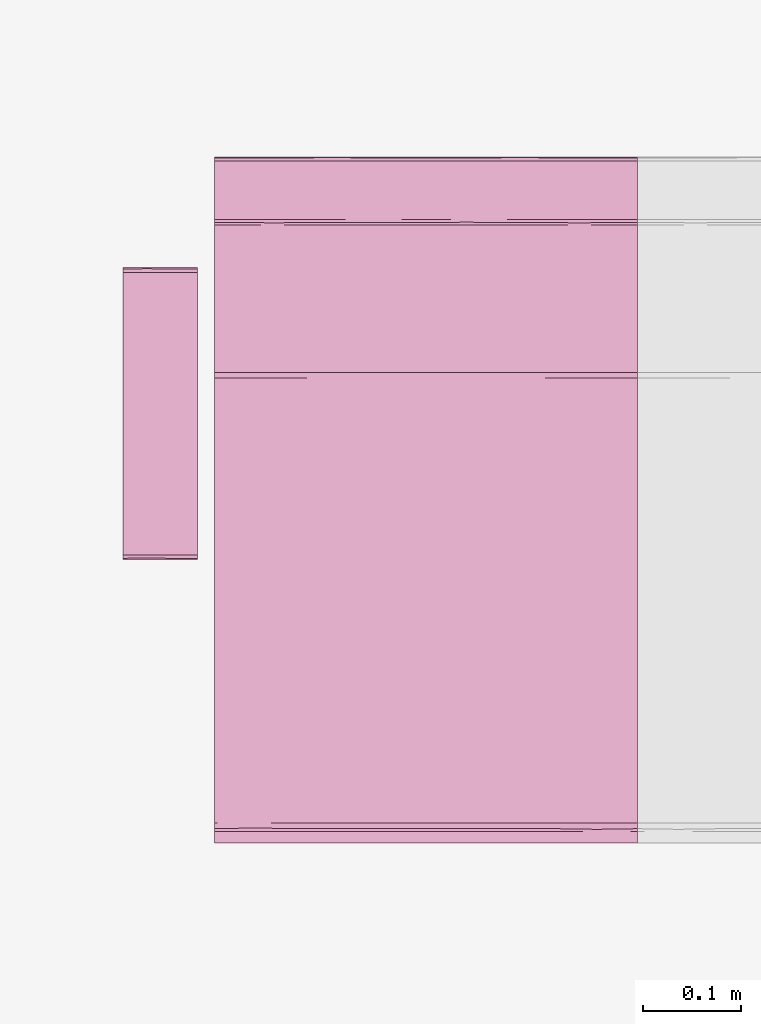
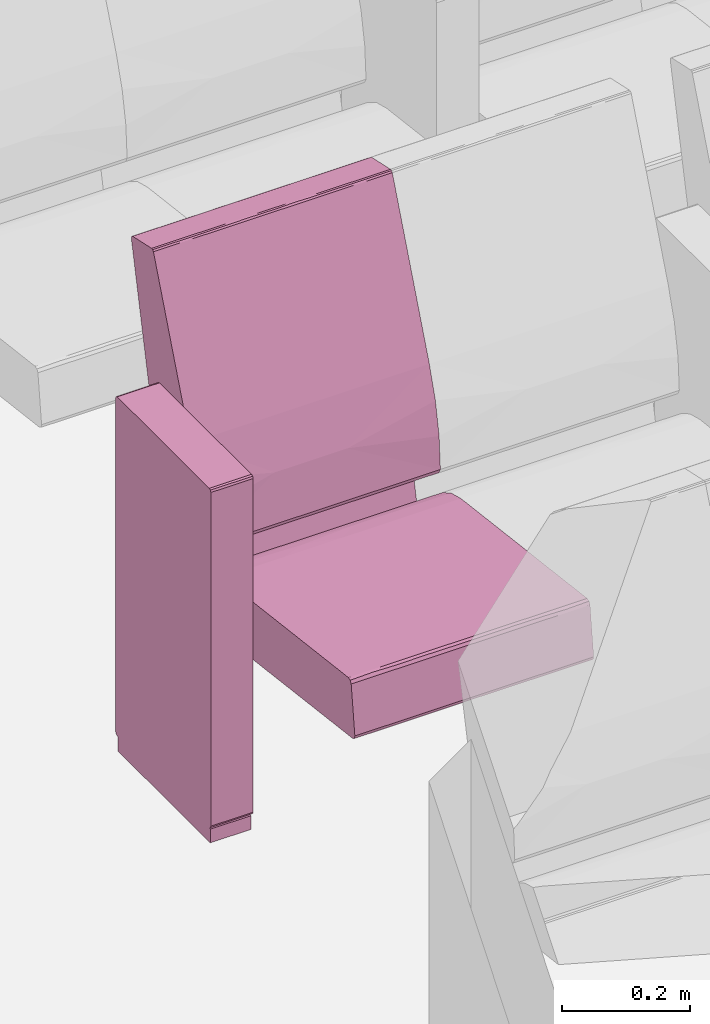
# One storey, part 107 of 155: 1 furnishing.
"""IFC2X3 building model written with IfcOpenShell, lengths in metres."""

from ifc_helpers import new_model, entity, si_unit, converted_unit, derived_unit, direction, frame, origin, place, context, subcontext, project, spatial, faceted_brep, source, transform, mapped, material, material_list, type_object, type_shapes, element, save


model = new_model("IFC2X3")

# Units and contexts
model_context = context("Model", 3, precision=1e-05, world=origin(), true_north=direction((6.12303176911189e-17, 1.0)))
body_context = subcontext(model_context, "Body", "Model", "MODEL_VIEW")
ifc_project = project(units=[si_unit("LENGTHUNIT", "METRE"), si_unit("AREAUNIT", "SQUARE_METRE"), si_unit("VOLUMEUNIT", "CUBIC_METRE"), converted_unit("PLANEANGLEUNIT", "DEGREE", entity("IfcRatioMeasure", 0.0174532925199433), si_unit("PLANEANGLEUNIT", "RADIAN"), dimensions=[0, 0, 0, 0, 0, 0, 0]), si_unit("MASSUNIT", "GRAM", prefix="KILO"), derived_unit("MASSDENSITYUNIT", [(si_unit("MASSUNIT", "GRAM", prefix="KILO"), 1), (si_unit("LENGTHUNIT", "METRE"), -3)]), si_unit("TIMEUNIT", "SECOND"), si_unit("FREQUENCYUNIT", "HERTZ"), si_unit("THERMODYNAMICTEMPERATUREUNIT", "DEGREE_CELSIUS"), derived_unit("THERMALTRANSMITTANCEUNIT", [(si_unit("MASSUNIT", "GRAM", prefix="KILO"), 1), (si_unit("THERMODYNAMICTEMPERATUREUNIT", "KELVIN"), -1), (si_unit("TIMEUNIT", "SECOND"), -3)]), derived_unit("VOLUMETRICFLOWRATEUNIT", [(si_unit("LENGTHUNIT", "METRE"), 3), (si_unit("TIMEUNIT", "SECOND"), -1)]), si_unit("ELECTRICCURRENTUNIT", "AMPERE"), si_unit("ELECTRICVOLTAGEUNIT", "VOLT"), si_unit("POWERUNIT", "WATT"), si_unit("FORCEUNIT", "NEWTON", prefix="KILO"), si_unit("ILLUMINANCEUNIT", "LUX"), si_unit("LUMINOUSFLUXUNIT", "LUMEN"), si_unit("LUMINOUSINTENSITYUNIT", "CANDELA"), derived_unit("USERDEFINED", [(si_unit("MASSUNIT", "GRAM", prefix="KILO"), -1), (si_unit("LENGTHUNIT", "METRE"), -2), (si_unit("TIMEUNIT", "SECOND"), 3), (si_unit("LUMINOUSFLUXUNIT", "LUMEN"), 1)]), derived_unit("LINEARVELOCITYUNIT", [(si_unit("LENGTHUNIT", "METRE"), 1), (si_unit("TIMEUNIT", "SECOND"), -1)]), si_unit("PRESSUREUNIT", "PASCAL"), derived_unit("USERDEFINED", [(si_unit("LENGTHUNIT", "METRE"), -2), (si_unit("MASSUNIT", "GRAM", prefix="KILO"), 1), (si_unit("TIMEUNIT", "SECOND"), -2)])], contexts=[model_context])

# Site, building, storey, space
site_placement = place(None, frame((26.9889013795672, -17.5624287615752, 0.0)))
site = spatial("IfcSite", under=ifc_project, at=site_placement, Name="Default", CompositionType="ELEMENT")
building_placement = place(site_placement, origin())
building = spatial("IfcBuilding", under=site, at=building_placement, Name="C. C. L. Monsenhor Antônio Sampaio", CompositionType="ELEMENT")
storey_placement = place(building_placement, frame((0.0, 0.0, 1.19999999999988)))
storey = spatial("IfcBuildingStorey", under=building, at=storey_placement, Name="Nível 1.2", CompositionType="ELEMENT", Elevation=1.19999999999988)
space_placement = place(storey_placement, origin())
space = spatial("IfcSpace", under=storey, at=space_placement, Name="94", CompositionType="ELEMENT", InteriorOrExteriorSpace="INTERNAL")

# Furnishing
ifc_material_1 = material(Name="V9 - V9 - Ecopelle_672_658")
ifc_material_2 = material(Name="V9 - V9 - RAL_9006_Grigio")
ifc_material_list_1 = material_list([ifc_material_1, ifc_material_2])
ifc_material_list_2 = material_list([ifc_material_1, ifc_material_2])
furniture_type = type_object("IfcFurnitureType", Name="Cadeira auditório", material=ifc_material_list_2)
shared_shape = source(origin(), body_context, "Body", "Brep", [
    faceted_brep([(0.405536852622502, 0.156348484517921, 0.339809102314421), (0.410560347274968, 0.131924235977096, 0.34246450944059), (0.405536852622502, 0.1075, 0.339809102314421), (0.405536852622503, 0.0537499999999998, 0.339809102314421), (0.410597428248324, 0.084060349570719, 0.342506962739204), (0.41079981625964, 0.0179166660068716, 0.342749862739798), (0.405536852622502, 0.215, 0.339809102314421), (0.410248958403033, 0.173608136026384, 0.342130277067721), (0.412515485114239, 0.185674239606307, 0.348529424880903), (0.412515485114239, 0.143333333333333, 0.348529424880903), (0.410560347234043, -0.131924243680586, 0.342464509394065), (0.405536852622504, -0.156348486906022, 0.33980910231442), (0.405536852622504, -0.1075, 0.33980910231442), (0.405536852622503, 0.0, 0.33980910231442), (0.41251548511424, 0.0, 0.348529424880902), (0.411170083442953, -0.0341365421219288, 0.343251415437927), (0.41059742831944, -0.0840603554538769, 0.342506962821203), (0.41251548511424, -0.143333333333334, 0.348529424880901), (0.412515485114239, 0.0358333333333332, 0.348529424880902), (0.412515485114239, 0.0716666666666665, 0.348529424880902), (0.405536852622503, -0.0537500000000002, 0.33980910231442), (0.412515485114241, -0.185674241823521, 0.348529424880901), (0.410799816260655, -0.215, 0.342749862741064), (0.410248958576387, -0.173608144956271, 0.342130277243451), (0.410799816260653, 0.215, 0.342749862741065), (0.412515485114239, 0.215, 0.348529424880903), (0.412515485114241, -0.215, 0.348529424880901), (0.41251548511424, -0.0716666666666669, 0.348529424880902), (0.405536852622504, -0.215, 0.33980910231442), (-0.0557900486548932, -0.215, 0.28268145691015), (-0.055790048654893, -0.168631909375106, 0.282681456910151), (-0.0557900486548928, -0.138065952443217, 0.282681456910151), (-0.0557900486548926, -0.107499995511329, 0.282681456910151), (-0.0557900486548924, -0.0806249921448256, 0.282681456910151), (-0.0557900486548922, -0.0537499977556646, 0.282681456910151), (-0.0557900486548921, -0.0268750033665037, 0.282681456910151), (-0.0557900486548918, 0.0, 0.28268145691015), (-0.0557900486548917, 0.0268749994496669, 0.282681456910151), (-0.0557900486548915, 0.0537499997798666, 0.282681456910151), (-0.0557900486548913, 0.0806250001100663, 0.282681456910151), (-0.0557900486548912, 0.107499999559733, 0.282681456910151), (-0.055790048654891, 0.134374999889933, 0.282681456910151), (-0.0557900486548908, 0.161250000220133, 0.282681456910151), (-0.0557900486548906, 0.1881249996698, 0.282681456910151), (-0.0557900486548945, 0.215, 0.28268145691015), (-0.0594787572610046, -0.0152829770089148, 0.283700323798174), (-0.0613666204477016, 0.0, 0.287029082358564), (-0.0594787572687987, 0.0179017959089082, 0.283700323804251), (-0.0613666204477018, 0.191815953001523, 0.287029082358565), (-0.0613666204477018, 0.215, 0.287029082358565), (-0.0594787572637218, 0.215, 0.283700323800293), (-0.0593340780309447, 0.0671874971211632, 0.283591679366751), (-0.0613666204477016, 0.030565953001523, 0.287029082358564), (-0.0594787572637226, -0.215, 0.283700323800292), (-0.0593337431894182, -0.184174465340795, 0.283591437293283), (-0.0613666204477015, -0.122263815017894, 0.287029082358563), (-0.0613666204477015, -0.0916978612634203, 0.287029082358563), (-0.0613666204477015, -0.0611319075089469, 0.287029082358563), (-0.0593023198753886, -0.0940625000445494, 0.283568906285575), (-0.059382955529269, 0.118123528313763, 0.28362747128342), (-0.0613666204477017, 0.122263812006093, 0.287029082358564), (-0.0597338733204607, 0.147039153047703, 0.283913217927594), (-0.0613666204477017, 0.168631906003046, 0.287029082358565), (-0.0592501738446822, 0.180223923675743, 0.283532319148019), (-0.0588783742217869, 0.0926899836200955, 0.283298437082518), (-0.0613666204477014, -0.215, 0.287029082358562), (-0.0613666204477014, -0.168631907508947, 0.287029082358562), (-0.0592576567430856, -0.123736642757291, 0.283537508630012), (-0.0594787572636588, -0.153348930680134, 0.283700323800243), (-0.0613666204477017, 0.0916978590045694, 0.287029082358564), (-0.0613666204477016, -0.0305659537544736, 0.287029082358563), (-0.059645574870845, -0.045848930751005, 0.283836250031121), (-0.0613666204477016, 0.0611319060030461, 0.287029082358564), (-0.069340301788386, -0.215, 0.351419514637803), (-0.0693403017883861, -0.143333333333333, 0.351419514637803), (-0.0693403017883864, -0.0716666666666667, 0.351419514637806), (-0.0693403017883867, 0.0, 0.351419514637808), (-0.069340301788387, 0.0716666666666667, 0.351419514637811), (-0.0693403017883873, 0.143333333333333, 0.351419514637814), (-0.0693403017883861, 0.215, 0.351419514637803), (-0.0597085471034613, 0.0, 0.37476954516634), (-0.0645543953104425, 0.112272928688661, 0.369803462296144), (-0.0653387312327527, 0.0126787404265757, 0.368680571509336), (-0.0681665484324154, -0.0888707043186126, 0.36292533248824), (-0.0655136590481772, -0.10440004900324, 0.368411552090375), (-0.0694879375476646, 0.0590582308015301, 0.356377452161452), (-0.0695056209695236, -0.125492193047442, 0.356093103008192), (-0.0597085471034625, -0.110316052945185, 0.374769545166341), (-0.0690003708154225, 0.132942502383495, 0.359900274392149), (-0.0672851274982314, 0.108066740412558, 0.365148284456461), (-0.0676206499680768, 0.215, 0.364371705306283), (-0.0686241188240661, 0.215, 0.356813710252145), (-0.0686241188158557, -0.214999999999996, 0.356813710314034), (-0.0686999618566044, 0.0358333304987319, 0.36116674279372), (-0.0694502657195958, -0.0358333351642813, 0.356863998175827), (-0.0676206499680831, -0.214999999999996, 0.364371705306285), (-0.0636645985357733, -0.214999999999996, 0.369570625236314), (-0.0597085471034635, -0.214999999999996, 0.374769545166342), (-0.0597085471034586, 0.215, 0.374769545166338), (-0.0636645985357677, 0.215, 0.36957062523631), (-0.0597085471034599, 0.110316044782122, 0.374769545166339), (-0.0324117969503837, 0.215, 0.390639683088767), (-0.0324117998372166, 0.0436847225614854, 0.39063968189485), (-0.0018793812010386, 0.215, 0.398686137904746), (-0.041847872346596, -0.0856576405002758, 0.386239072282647), (-0.0324117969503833, -0.215, 0.390639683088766), (-0.00187938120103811, -0.215, 0.398686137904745), (-0.00187938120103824, -0.102488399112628, 0.398686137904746), (-0.0219042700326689, -0.0570631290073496, 0.394412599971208), (-0.00187938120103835, 0.0, 0.398686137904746), (0.392202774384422, 0.215, 0.447486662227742), (0.392202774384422, -0.215, 0.447486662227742), (0.392202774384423, -0.156349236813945, 0.447486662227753), (0.392202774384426, -0.107499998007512, 0.447486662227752), (0.392202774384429, -0.0537500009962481, 0.44748666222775), (0.392202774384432, 0.0, 0.447486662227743), (0.392202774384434, 0.0537499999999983, 0.447486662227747), (0.392202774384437, 0.107499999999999, 0.447486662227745), (0.392202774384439, 0.156349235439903, 0.447486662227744), (0.398104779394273, -0.131924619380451, 0.445856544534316), (0.401125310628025, -0.0976984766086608, 0.440530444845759), (0.397860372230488, -0.0827732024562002, 0.446039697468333), (0.401125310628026, -0.215000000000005, 0.440530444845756), (0.401125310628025, -0.156349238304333, 0.440530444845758), (0.397373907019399, -0.173462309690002, 0.446363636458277), (0.398104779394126, -0.215000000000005, 0.445856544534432), (0.397860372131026, 0.0827731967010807, 0.446039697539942), (0.398104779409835, 0.131924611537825, 0.445856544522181), (0.398104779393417, -0.0237489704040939, 0.445856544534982), (0.398104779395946, 0.0268749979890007, 0.445856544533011), (0.401125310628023, 0.0488492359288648, 0.440530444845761), (0.401125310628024, -0.0488492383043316, 0.440530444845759), (0.398774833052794, 0.173462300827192, 0.445271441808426), (0.401125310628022, 0.097698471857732, 0.440530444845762), (0.401125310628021, 0.215, 0.440530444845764), (0.39810477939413, 0.215, 0.445856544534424), (0.401125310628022, 0.156349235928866, 0.440530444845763), (0.401125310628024, 0.0, 0.44053044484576)], [[[0, 1, 2]], [[3, 4, 5]], [[6, 7, 0]], [[7, 8, 9]], [[10, 11, 12]], [[3, 5, 13]], [[14, 15, 5]], [[16, 17, 10]], [[9, 1, 7]], [[18, 5, 4]], [[4, 9, 19, 18]], [[9, 4, 1]], [[2, 1, 4]], [[13, 15, 20]], [[21, 22, 23]], [[5, 18, 14]], [[24, 25, 8]], [[22, 21, 26]], [[24, 7, 6]], [[23, 11, 10]], [[20, 15, 16]], [[3, 2, 4]], [[14, 27, 15]], [[5, 15, 13]], [[27, 17, 16]], [[10, 12, 16]], [[21, 23, 17]], [[20, 16, 12]], [[15, 27, 16]], [[7, 1, 0]], [[28, 11, 23]], [[8, 7, 24]], [[23, 10, 17]], [[28, 23, 22]], [[28, 29, 30, 31, 32, 33, 34, 35, 36, 37, 38, 39, 40, 41, 42, 43, 44, 6, 0, 2, 3, 13, 20, 12, 11]], [[45, 46, 47]], [[48, 49, 50]], [[51, 47, 52]], [[29, 53, 54]], [[55, 56, 57, 58]], [[59, 60, 61]], [[61, 62, 63]], [[51, 64, 39]], [[65, 66, 54]], [[31, 67, 32]], [[45, 47, 38, 37, 36, 35]], [[68, 31, 30]], [[43, 50, 44]], [[63, 42, 61]], [[48, 50, 63]], [[64, 69, 59]], [[68, 54, 66]], [[63, 62, 48]], [[50, 43, 63]], [[67, 55, 58]], [[61, 42, 41]], [[45, 70, 46]], [[55, 68, 66]], [[71, 33, 58]], [[71, 57, 70]], [[41, 40, 59]], [[60, 62, 61]], [[71, 35, 34, 33]], [[35, 71, 45]], [[47, 46, 52]], [[45, 71, 70]], [[58, 57, 71]], [[32, 58, 33]], [[31, 68, 67]], [[54, 68, 30]], [[29, 54, 30]], [[54, 53, 65]], [[55, 67, 68]], [[32, 67, 58]], [[51, 52, 72, 69]], [[43, 42, 63]], [[41, 59, 61]], [[47, 51, 38]], [[40, 39, 64]], [[38, 51, 39]], [[69, 60, 59]], [[69, 64, 51]], [[40, 64, 59]], [[65, 73, 74, 75, 76, 77, 78, 79, 49, 48, 62, 60, 69, 72, 52, 46, 70, 57, 56, 55, 66]], [[80, 81, 82]], [[82, 83, 84]], [[78, 77, 76, 85]], [[86, 75, 74]], [[84, 80, 82]], [[80, 84, 87]], [[88, 89, 90]], [[91, 79, 78]], [[74, 73, 92]], [[85, 88, 91]], [[81, 89, 82]], [[93, 94, 83]], [[94, 86, 83]], [[85, 76, 94]], [[92, 86, 74]], [[85, 94, 93]], [[83, 92, 95]], [[75, 94, 76]], [[93, 83, 82]], [[95, 96, 84]], [[88, 85, 93]], [[96, 97, 87]], [[98, 99, 100]], [[78, 85, 91]], [[89, 88, 93]], [[90, 91, 88]], [[93, 82, 89]], [[81, 99, 89]], [[99, 90, 89]], [[100, 81, 80]], [[100, 99, 81]], [[83, 86, 92]], [[75, 86, 94]], [[95, 84, 83]], [[87, 84, 96]], [[101, 102, 103]], [[104, 80, 87, 97]], [[105, 106, 107]], [[107, 108, 105]], [[103, 102, 109]], [[104, 102, 80]], [[104, 108, 102]], [[98, 102, 101]], [[105, 104, 97]], [[105, 108, 104]], [[102, 98, 100, 80]], [[109, 108, 107]], [[109, 102, 108]], [[110, 103, 109, 107, 106, 111, 112, 113, 114, 115, 116, 117, 118]], [[119, 120, 121]], [[122, 123, 124]], [[111, 125, 124]], [[117, 116, 126]], [[124, 119, 112]], [[113, 112, 119]], [[127, 118, 117]], [[115, 114, 128, 129, 116]], [[129, 130, 126]], [[121, 131, 128]], [[127, 132, 118]], [[110, 118, 132]], [[127, 126, 133]], [[119, 124, 123]], [[134, 135, 132]], [[136, 132, 127]], [[120, 119, 123]], [[133, 136, 127]], [[137, 130, 129, 128, 131]], [[126, 127, 117]], [[130, 133, 126]], [[113, 119, 121]], [[129, 126, 116]], [[128, 114, 121]], [[114, 113, 121]], [[131, 121, 120]], [[111, 124, 112]], [[124, 125, 122]], [[134, 132, 136]], [[132, 135, 110]], [[19, 9, 8, 25, 134, 136, 133, 130, 137, 131, 120, 123, 122, 26, 21, 17, 27, 14, 18]], [[65, 53, 29, 28, 22, 26, 122, 125, 111, 106, 105, 97, 96, 95, 92, 73]], [[98, 101, 103, 110, 135, 134, 25, 24, 6, 44, 50, 49, 79, 91, 90, 99]]]),
    faceted_brep([(0.123144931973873, -0.283972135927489, 0.673627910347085), (0.12334838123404, -0.259944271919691, 0.6734355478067), (0.119812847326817, -0.27, 0.674900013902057), (0.124812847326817, -0.27, 0.669900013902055), (0.12334838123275, -0.232, 0.673435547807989), (0.119812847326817, -0.232, 0.674900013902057), (0.124812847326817, -0.308, 0.669900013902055), (0.119812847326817, -0.308, 0.674900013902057), (0.124812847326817, -0.249888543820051, 0.669900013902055), (0.124812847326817, -0.232, 0.669900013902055), (0.12334838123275, -0.308, 0.673435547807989), (0.124812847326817, -0.27, 0.035), (0.124812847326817, -0.232, 0.035), (0.124812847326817, -0.308, 0.0350000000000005), (0.123540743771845, -0.283972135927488, 0.0316679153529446), (0.12334838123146, -0.25994427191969, 0.0314644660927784), (0.119812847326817, -0.27, 0.0300000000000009), (0.12334838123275, -0.232, 0.0314644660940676), (0.119812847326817, -0.308, 0.0300000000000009), (0.119812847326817, -0.249888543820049, 0.030000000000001), (0.119812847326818, -0.232, 0.030000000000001), (0.123348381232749, -0.308, 0.0314644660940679), (-0.167179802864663, -0.308, 0.0300000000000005), (-0.167179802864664, -0.27, 0.0300000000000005), (-0.167179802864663, -0.232, 0.0300000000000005), (-0.17051188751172, -0.283972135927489, 0.0312721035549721), (-0.170715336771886, -0.25994427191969, 0.0314644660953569), (-0.172179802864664, -0.27, 0.0350000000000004), (-0.170715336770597, -0.232, 0.0314644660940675), (-0.172179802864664, -0.308, 0.0350000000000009), (-0.172179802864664, -0.24988854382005, 0.0350000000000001), (-0.172179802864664, -0.232, 0.0349999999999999), (-0.170715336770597, -0.308, 0.0314644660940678), (-0.172179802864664, -0.308, 0.669900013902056), (-0.172179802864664, -0.27, 0.669900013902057), (-0.172179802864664, -0.232, 0.669900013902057), (-0.170907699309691, -0.283972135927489, 0.673232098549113), (-0.170715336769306, -0.259944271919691, 0.673435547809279), (-0.167179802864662, -0.27, 0.674900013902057), (-0.170715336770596, -0.232, 0.67343554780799), (-0.167179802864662, -0.308, 0.674900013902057), (-0.167179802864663, -0.249888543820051, 0.674900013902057), (-0.167179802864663, -0.232, 0.674900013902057), (-0.170715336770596, -0.308, 0.67343554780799)], [[[0, 1, 2]], [[1, 0, 3]], [[1, 4, 5, 2]], [[6, 3, 0]], [[7, 0, 2]], [[4, 1, 3, 8, 9]], [[10, 0, 7]], [[0, 10, 6]], [[11, 12, 9, 8, 3, 6, 13]], [[14, 15, 11]], [[15, 14, 16]], [[15, 17, 12, 11]], [[18, 16, 14]], [[13, 14, 11]], [[17, 15, 16, 19, 20]], [[21, 14, 13]], [[14, 21, 18]], [[18, 22, 23, 24, 20, 19, 16]], [[25, 26, 23]], [[26, 25, 27]], [[26, 28, 24, 23]], [[29, 27, 25]], [[22, 25, 23]], [[28, 26, 27, 30, 31]], [[32, 25, 22]], [[25, 32, 29]], [[27, 29, 33, 34, 35, 31, 30]], [[36, 37, 34]], [[37, 36, 38]], [[37, 39, 35, 34]], [[40, 38, 36]], [[33, 36, 34]], [[39, 37, 38, 41, 42]], [[43, 36, 33]], [[36, 43, 40]], [[40, 7, 2, 5, 42, 41, 38]], [[35, 39, 42, 5, 4, 9, 12, 17, 20, 24, 28, 31]], [[29, 32, 22, 18, 21, 13, 6, 10, 7, 40, 43, 33]]]),
    faceted_brep([(-0.0695672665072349, 0.215, 0.476508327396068), (-0.074405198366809, 0.0524423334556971, 0.506888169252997), (-0.0655618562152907, 0.215, 0.415143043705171), (-0.0744051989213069, -0.0780075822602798, 0.506888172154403), (-0.0655618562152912, 0.0, 0.415143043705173), (-0.0655618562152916, -0.215, 0.415143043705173), (-0.0655618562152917, -0.1075, 0.415143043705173), (-0.0655618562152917, 0.1075, 0.415143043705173), (-0.0695672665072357, -0.215, 0.476508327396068), (-0.081111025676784, -0.215, 0.536911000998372), (-0.0811110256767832, 0.215, 0.536911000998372), (-0.100016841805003, 0.215, 0.595428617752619), (-0.100016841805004, 0.0, 0.595428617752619), (-0.100016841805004, -0.215, 0.595428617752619), (-0.0698317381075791, 0.0358333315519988, 0.406528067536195), (-0.0792851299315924, 0.0, 0.404772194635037), (-0.0792851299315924, 0.0716666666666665, 0.404772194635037), (-0.0792851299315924, -0.215, 0.404772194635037), (-0.0792851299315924, -0.143333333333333, 0.404772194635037), (-0.0698317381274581, -0.215, 0.406528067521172), (-0.0792851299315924, 0.143333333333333, 0.404772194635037), (-0.0792851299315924, 0.215, 0.404772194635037), (-0.0698317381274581, 0.215, 0.406528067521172), (-0.0694171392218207, 0.140338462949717, 0.406857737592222), (-0.0708115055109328, -0.0356393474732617, 0.405868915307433), (-0.0703502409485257, -0.107500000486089, 0.406159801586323), (-0.0792851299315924, -0.0716666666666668, 0.404772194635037), (-0.163837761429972, -0.215, 0.420611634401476), (-0.163837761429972, 0.215, 0.420611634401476), (-0.123612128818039, 0.215, 0.235917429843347), (-0.123612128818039, -0.215, 0.235917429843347), (-0.142059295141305, -0.215, 0.231899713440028), (-0.142059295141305, 0.215, 0.231899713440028), (-0.235388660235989, -0.215, 0.652619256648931), (-0.235388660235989, 0.215, 0.652619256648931), (-0.28428001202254, -0.215, 0.873004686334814), (-0.284280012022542, -0.191295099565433, 0.873004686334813), (-0.284280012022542, -0.161249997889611, 0.873004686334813), (-0.284280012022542, -0.134374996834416, 0.873004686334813), (-0.284280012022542, -0.107499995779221, 0.873004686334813), (-0.284280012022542, -0.0806249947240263, 0.873004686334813), (-0.284280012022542, -0.0537499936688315, 0.873004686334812), (-0.284280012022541, -0.0268749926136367, 0.873004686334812), (-0.28428001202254, 0.0, 0.873004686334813), (-0.284280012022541, 0.0268749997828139, 0.873004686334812), (-0.284280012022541, 0.0537500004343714, 0.873004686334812), (-0.284280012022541, 0.0806250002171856, 0.873004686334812), (-0.284280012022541, 0.1075, 0.873004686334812), (-0.284280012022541, 0.134374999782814, 0.873004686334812), (-0.28428001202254, 0.161249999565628, 0.873004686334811), (-0.28428001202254, 0.191295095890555, 0.873004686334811), (-0.28428001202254, 0.215, 0.873004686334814), (-0.283746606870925, 0.0872244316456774, 0.876674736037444), (-0.283504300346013, 0.0569644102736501, 0.877068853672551), (-0.283567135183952, -0.15546176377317, 0.876973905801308), (-0.283641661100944, -0.12093750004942, 0.87685511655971), (-0.283567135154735, 0.155461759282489, 0.876973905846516), (-0.28330409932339, 0.185293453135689, 0.877344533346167), (-0.283641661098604, 0.0179166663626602, 0.876855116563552), (-0.283641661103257, -0.0136463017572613, 0.876855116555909), (-0.280514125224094, -0.0358333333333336, 0.879190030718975), (-0.280514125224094, 0.0, 0.879190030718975), (-0.280514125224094, 0.0358333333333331, 0.879190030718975), (-0.280514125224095, -0.143333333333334, 0.879190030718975), (-0.280514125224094, -0.1075, 0.879190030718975), (-0.280514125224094, -0.071666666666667, 0.879190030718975), (-0.283746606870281, -0.0872244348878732, 0.876674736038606), (-0.280514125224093, 0.0716666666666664, 0.879190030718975), (-0.280514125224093, 0.1075, 0.879190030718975), (-0.283641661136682, 0.120937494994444, 0.876855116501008), (-0.280514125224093, 0.143333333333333, 0.879190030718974), (-0.283641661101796, 0.215, 0.876855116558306), (-0.283641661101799, -0.215, 0.876855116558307), (-0.283304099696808, -0.18529345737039, 0.877344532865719), (-0.280514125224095, -0.167590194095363, 0.879190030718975), (-0.280514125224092, 0.215, 0.879190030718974), (-0.280514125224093, 0.167590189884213, 0.879190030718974), (-0.280514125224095, -0.215, 0.879190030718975), (-0.283504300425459, -0.0569644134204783, 0.8770688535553), (-0.22111253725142, 0.215, 0.892176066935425), (-0.22111253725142, -0.215, 0.892176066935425), (-0.221112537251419, -0.191815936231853, 0.892176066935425), (-0.221112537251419, -0.161250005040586, 0.892176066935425), (-0.221112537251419, -0.134375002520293, 0.892176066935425), (-0.221112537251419, -0.1075, 0.892176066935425), (-0.221112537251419, -0.080624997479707, 0.892176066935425), (-0.221112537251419, -0.0537499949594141, 0.892176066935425), (-0.221112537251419, -0.0268750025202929, 0.892176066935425), (-0.221112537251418, 0.0, 0.892176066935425), (-0.221112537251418, 0.0268750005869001, 0.892176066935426), (-0.221112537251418, 0.05375000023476, 0.892176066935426), (-0.221112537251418, 0.0806249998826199, 0.892176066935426), (-0.221112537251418, 0.10749999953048, 0.892176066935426), (-0.221112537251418, 0.13437499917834, 0.892176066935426), (-0.221112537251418, 0.16124999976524, 0.892176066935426), (-0.221112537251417, 0.19181594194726, 0.892176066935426), (-0.215419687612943, 0.0, 0.889191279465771), (-0.215419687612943, 0.0358333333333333, 0.889191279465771), (-0.217722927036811, 0.0162353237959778, 0.891719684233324), (-0.217722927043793, -0.0134375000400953, 0.891719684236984), (-0.215419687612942, -0.191815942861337, 0.889191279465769), (-0.215419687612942, -0.168631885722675, 0.889191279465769), (-0.217722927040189, -0.182482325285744, 0.891719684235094), (-0.217722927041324, -0.215, 0.891719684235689), (-0.215419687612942, -0.215, 0.889191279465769), (-0.215419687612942, -0.1075, 0.88919127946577), (-0.215419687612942, -0.0716666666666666, 0.88919127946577), (-0.217722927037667, -0.0912646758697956, 0.891719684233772), (-0.217722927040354, -0.120937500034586, 0.89171968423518), (-0.215419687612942, -0.143333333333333, 0.88919127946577), (-0.215419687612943, 0.191815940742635, 0.889191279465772), (-0.215419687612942, 0.215, 0.889191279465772), (-0.217722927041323, 0.215, 0.89171968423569), (-0.217722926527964, 0.190103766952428, 0.891719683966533), (-0.217722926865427, 0.0912646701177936, 0.891719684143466), (-0.217816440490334, 0.0647800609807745, 0.891767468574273), (-0.215419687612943, 0.0716666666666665, 0.889191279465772), (-0.217816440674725, -0.0647800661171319, 0.891767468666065), (-0.2179983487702, -0.0390825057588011, 0.891853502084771), (-0.217558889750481, -0.155982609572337, 0.891629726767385), (-0.217722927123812, 0.120937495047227, 0.891719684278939), (-0.215419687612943, 0.16863188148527, 0.889191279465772), (-0.215419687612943, 0.143333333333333, 0.889191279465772), (-0.217558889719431, 0.15598260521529, 0.891629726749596), (-0.215419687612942, -0.0358333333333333, 0.889191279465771), (-0.215419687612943, 0.1075, 0.889191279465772), (-0.218257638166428, 0.0404491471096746, 0.891961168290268)], [[[0, 1, 2]], [[1, 3, 4]], [[3, 5, 6, 4]], [[1, 4, 7, 2]], [[5, 3, 8]], [[8, 3, 9]], [[0, 10, 1]], [[11, 12, 1]], [[3, 13, 9]], [[3, 12, 13]], [[11, 1, 10]], [[3, 1, 12]], [[14, 15, 16]], [[17, 18, 19]], [[20, 21, 22]], [[2, 23, 22]], [[14, 7, 4]], [[14, 24, 15]], [[6, 25, 24]], [[22, 23, 20]], [[14, 23, 7]], [[19, 6, 5]], [[4, 24, 14]], [[16, 23, 14]], [[16, 20, 23]], [[26, 25, 18]], [[25, 19, 18]], [[15, 24, 26]], [[23, 2, 7]], [[19, 25, 6]], [[26, 24, 25]], [[6, 24, 4]], [[15, 26, 18, 17, 27, 28, 21, 20, 16]], [[29, 28, 27, 30]], [[30, 31, 32, 29]], [[32, 31, 33, 34]], [[34, 33, 35, 36, 37, 38, 39, 40, 41, 42, 43, 44, 45, 46, 47, 48, 49, 50, 51]], [[52, 46, 53]], [[38, 54, 55]], [[56, 57, 49]], [[58, 59, 60, 61, 62]], [[63, 64, 55]], [[64, 65, 66]], [[52, 67, 68]], [[69, 70, 56]], [[49, 57, 50]], [[38, 55, 39]], [[71, 51, 50]], [[36, 35, 72]], [[59, 58, 44, 43, 42]], [[73, 74, 54]], [[55, 66, 39]], [[75, 57, 76]], [[77, 74, 73]], [[69, 52, 68]], [[37, 36, 73]], [[54, 74, 63]], [[56, 76, 57]], [[36, 72, 73]], [[75, 71, 57]], [[70, 76, 56]], [[52, 69, 47]], [[48, 47, 69]], [[42, 78, 59]], [[66, 55, 64]], [[50, 57, 71]], [[73, 54, 37]], [[77, 73, 72]], [[48, 69, 56]], [[56, 49, 48]], [[69, 68, 70]], [[53, 46, 45, 44]], [[58, 62, 53]], [[53, 44, 58]], [[38, 37, 54]], [[63, 55, 54]], [[78, 66, 65]], [[78, 40, 66]], [[67, 52, 53]], [[78, 42, 41, 40]], [[65, 60, 78]], [[59, 78, 60]], [[52, 47, 46]], [[40, 39, 66]], [[62, 67, 53]], [[79, 75, 76, 70, 68, 67, 62, 61, 60, 65, 64, 63, 74, 77, 80, 81, 82, 83, 84, 85, 86, 87, 88, 89, 90, 91, 92, 93, 94, 95]], [[96, 97, 98, 99]], [[100, 101, 102, 103, 104]], [[105, 106, 107, 108, 109]], [[110, 111, 112]], [[113, 112, 95]], [[114, 115, 116]], [[117, 118, 86]], [[82, 119, 83]], [[102, 82, 81, 80, 103]], [[112, 79, 95]], [[108, 107, 85, 84, 83]], [[88, 87, 99, 98, 89]], [[119, 101, 109]], [[93, 92, 120]], [[117, 85, 107]], [[113, 121, 110]], [[122, 121, 123]], [[113, 94, 123]], [[124, 99, 118]], [[122, 123, 120]], [[108, 119, 109]], [[113, 110, 112]], [[102, 101, 119]], [[119, 108, 83]], [[114, 125, 120]], [[123, 94, 93]], [[93, 120, 123]], [[114, 120, 92]], [[122, 120, 125]], [[117, 107, 106]], [[114, 92, 91]], [[116, 125, 114]], [[115, 91, 90]], [[85, 117, 86]], [[126, 89, 98]], [[117, 106, 124]], [[118, 99, 87]], [[124, 96, 99]], [[97, 116, 115]], [[97, 115, 126]], [[86, 118, 87]], [[124, 118, 117]], [[91, 115, 114]], [[115, 90, 126]], [[89, 126, 90]], [[97, 126, 98]], [[82, 102, 119]], [[94, 113, 95]], [[121, 113, 123]], [[11, 111, 110, 121, 122, 125, 116, 97, 96, 124, 106, 105, 109, 101, 100, 104, 13, 12]], [[27, 17, 19, 5, 8, 9, 13, 104, 103, 80, 77, 72, 35, 33, 31, 30]], [[51, 71, 75, 79, 112, 111, 11, 10, 0, 2, 22, 21, 28, 29, 32, 34]]]),
    faceted_brep([(0.120312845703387, -0.2335, 0.0), (0.120312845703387, -0.2335, 0.0260000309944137), (0.120312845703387, -0.249500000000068, 0.0260000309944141), (0.120312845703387, -0.27, 0.0260000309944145), (0.120312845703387, -0.3065, 0.0260000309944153), (0.120312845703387, -0.3065, 0.0), (-0.167687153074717, -0.3065, 0.0), (-0.167687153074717, -0.2335, 0.0), (-0.167687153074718, -0.27, 0.0260000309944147), (-0.167687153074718, -0.2335, 0.0260000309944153), (-0.167687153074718, -0.3065, 0.0260000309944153), (-0.166521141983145, -0.233500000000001, 0.0288228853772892), (-0.166521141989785, -0.257382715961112, 0.0288228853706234), (-0.163702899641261, -0.233500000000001, 0.0300000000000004), (-0.163702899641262, -0.3065, 0.0300000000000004), (-0.16652114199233, -0.279986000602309, 0.0288228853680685), (-0.166521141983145, -0.3065, 0.0288228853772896), (-0.163702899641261, -0.27, 0.0300000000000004), (0.116297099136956, -0.3065, 0.0300000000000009), (0.116297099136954, -0.269999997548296, 0.0300000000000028), (0.116297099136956, -0.2335, 0.0300000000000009), (0.119033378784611, -0.283124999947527, 0.0289323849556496), (0.1191357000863, -0.2335, 0.0288340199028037), (0.119135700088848, -0.259750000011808, 0.0288340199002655), (0.119135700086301, -0.3065, 0.0288340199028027)], [[[0, 1, 2, 3, 4, 5]], [[0, 5, 6, 7]], [[8, 9, 7, 6, 10]], [[11, 12, 13]], [[14, 15, 16]], [[15, 14, 17, 13, 12]], [[9, 8, 12, 11]], [[16, 15, 10]], [[8, 10, 15, 12]], [[14, 18, 19, 20, 13, 17]], [[21, 4, 3]], [[22, 20, 19, 23]], [[3, 2, 1, 22, 23]], [[24, 21, 18]], [[21, 3, 23]], [[18, 21, 19]], [[21, 24, 4]], [[21, 23, 19]], [[6, 5, 4, 24, 18, 14, 16, 10]], [[7, 9, 11, 13, 20, 22, 1, 0]]]),
])
type_shapes(furniture_type, [shared_shape])
furnishing_placement = place(space_placement, frame((-9.03594929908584, -14.3320195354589, 0.0), z_axis=(0.0, 0.0, 1.0), x_axis=(0.0, -1.0, 0.0)))
element("IfcFurnishingElement", 1, at=furnishing_placement, inside=space, type_object=furniture_type, material=ifc_material_list_1, Name="cadeira auditório pcd:Cadeira auditório", ObjectType="Cadeira auditório", context=body_context, shape_type="MappedRepresentation", body=[
    mapped(shared_shape, transform((0.0, 0.0, 0.0), scale=1.0)),
])

save(model, "model.ifc")
